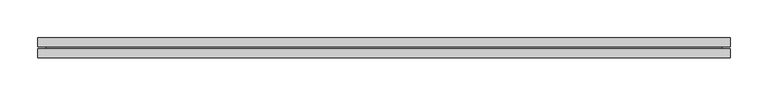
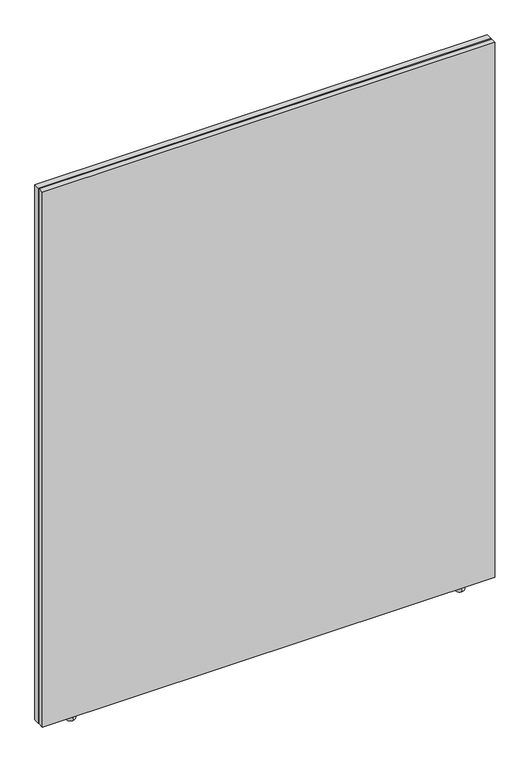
"""IFC4 building model written with IfcOpenShell, lengths in millimetres: furniture geometry, Geiger_GeigerOneCasegoods_WallFrameStandardApplication : 36Wx1Dx45H."""

from ifc_helpers import new_model, si_unit, point, frame, origin, place, context, project, spatial, circle_curve, ellipse_curve, trimmed, faceted_brep, source, transform, mapped, element, save
from ifc_brep_helpers import plane_surface, cylinder_surface, revolved_surface, advanced_brep


def furniture_9214251e(model_context):
    return source(origin(), model_context, "Body", "SolidModel", [
        faceted_brep([(914.4, 26.0, 12.7), (0.0, 26.0, 12.7), (0.0, 26.0, 1155.7), (914.4, 26.0, 1155.7), (914.4, 0.0, 1155.7), (0.0, 0.0, 1155.7), (0.0, 0.0, 12.7), (914.4, 0.0, 12.7), (914.4, 14.5, 1155.7), (914.4, 14.5, 12.7), (903.4, 11.5, 1144.7), (903.4, 11.5, 23.7), (903.4, 14.5, 23.7), (903.4, 14.5, 1144.7), (914.4, 11.5, 12.7), (914.4, 11.5, 1155.7), (0.0, 14.5, 12.7), (11.0, 11.5, 23.7), (11.0, 14.5, 23.7), (0.0, 11.5, 12.7), (0.0, 14.5, 1155.7), (11.0, 11.5, 1144.7), (11.0, 14.5, 1144.7), (0.0, 11.5, 1155.7)], [[[0, 1, 2, 3]], [[4, 5, 6, 7]], [[8, 9, 0, 3]], [[10, 11, 12, 13]], [[4, 7, 14, 15]], [[9, 16, 1, 0]], [[11, 17, 18, 12]], [[7, 6, 19, 14]], [[16, 20, 2, 1]], [[17, 21, 22, 18]], [[6, 5, 23, 19]], [[3, 2, 20, 8]], [[8, 20, 16, 9], [12, 18, 22, 13]], [[13, 22, 21, 10]], [[14, 19, 23, 15], [10, 21, 17, 11]], [[15, 23, 5, 4]]]),
        advanced_brep(
        [(850.4, 13.0, 0.0), (850.4, 17.7387577, 0.0), (850.4, 8.2612423, 0.0), (850.4, 18.8637403, 9.4), (850.4, 7.1362597, 9.4), (850.4, 20.25, 9.4), (850.4, 5.75, 9.4), (850.4, 20.25, 12.7), (850.4, 5.75, 12.7), (850.4, 13.0, 12.7)],
        [
            (0, 1),
            (1, 2, circle_curve(frame((850.4, 13.0, 0.0), z_axis=(0.0, 0.0, -1.0), x_axis=(0.0, -1.0, 0.0)), 4.7387577)),
            (2, 0),
            (2, 1, circle_curve(frame((850.4, 13.0, 0.0), z_axis=(0.0, 0.0, -1.0), x_axis=(0.0, -1.0, 0.0)), 4.7387577)),
            (1, 3, circle_curve(frame((850.4, 17.7387577, 4.7673184), z_axis=(1.0, 0.0, 0.0), x_axis=(0.0, 1.0, 0.0)), 4.7673184)),
            (3, 4, circle_curve(frame((850.4, 13.0, 9.4), z_axis=(0.0, 0.0, -1.0), x_axis=(0.0, -1.0, 0.0)), 5.8637403)),
            (4, 2, circle_curve(frame((850.4, 8.2612423, 4.7673184), z_axis=(1.0, 0.0, 0.0), x_axis=(0.0, -1.0, 0.0)), 4.7673184)),
            (4, 3, circle_curve(frame((850.4, 13.0, 9.4), z_axis=(0.0, 0.0, -1.0), x_axis=(0.0, -1.0, 0.0)), 5.8637403)),
            (3, 5),
            (5, 6, circle_curve(frame((850.4, 13.0, 9.4), z_axis=(0.0, 0.0, -1.0), x_axis=(0.0, -1.0, 0.0)), 7.25)),
            (6, 4),
            (6, 5, circle_curve(frame((850.4, 13.0, 9.4), z_axis=(0.0, 0.0, -1.0), x_axis=(0.0, -1.0, 0.0)), 7.25)),
            (5, 7),
            (7, 8, circle_curve(frame((850.4, 13.0, 12.7), z_axis=(0.0, 0.0, -1.0), x_axis=(0.0, -1.0, 0.0)), 7.25)),
            (8, 6),
            (8, 7, circle_curve(frame((850.4, 13.0, 12.7), z_axis=(0.0, 0.0, -1.0), x_axis=(0.0, -1.0, 0.0)), 7.25)),
            (7, 9),
            (9, 8),
        ],
        [
            plane_surface(frame((850.4, 13.0, 0.0), z_axis=(0.0, 0.0, -1.0), x_axis=(0.0, -1.0, 0.0))),
            revolved_surface(trimmed(ellipse_curve(frame((850.4, 8.2612423, 4.7673184), z_axis=(1.0, 0.0, 0.0), x_axis=(0.0, -1.0, 0.0)), 4.7673184, 4.7673184), [point((850.4, 7.1362597, 9.4))], [point((850.4, 8.2612423, 0.0))], True, "CARTESIAN"), (850.4, 13.0, 0.0), (0.0, 0.0, -1.0)),
            plane_surface(frame((850.4, 13.0, 9.4), z_axis=(0.0, 0.0, -1.0), x_axis=(0.0, -1.0, 0.0))),
            cylinder_surface(frame((850.4, 13.0, 0.0), z_axis=(0.0, 0.0, -1.0), x_axis=(0.0, -1.0, 0.0)), 7.25),
            plane_surface(frame((850.4, 13.0, 12.7), z_axis=(0.0, 0.0, 1.0), x_axis=(0.0, -1.0, 0.0))),
        ],
        [
            (0, [[1, 2, 3]]),
            (0, [[-3, 4, -1]]),
            (1, [[5, 6, 7, -2]]),
            (1, [[-7, 8, -5, -4]]),
            (2, [[9, 10, 11, -6]]),
            (2, [[-11, 12, -9, -8]]),
            (3, [[13, 14, 15, -10]]),
            (3, [[-15, 16, -13, -12]]),
            (4, [[17, 18, -14]]),
            (4, [[-18, -17, -16]]),
        ],
    ),
        advanced_brep(
        [(64.0, 17.7387577, 0.0), (64.0, 13.0, 0.0), (64.0, 8.2612423, 0.0), (64.0, 18.8637403, 9.4), (64.0, 7.1362597, 9.4), (64.0, 20.25, 9.4), (64.0, 5.75, 9.4), (64.0, 20.25, 12.7), (64.0, 5.75, 12.7), (64.0, 13.0, 12.7)],
        [
            (0, 1),
            (1, 2),
            (2, 0, circle_curve(frame((64.0, 13.0, 0.0), z_axis=(0.0, 0.0, -1.0), x_axis=(0.0, -1.0, 0.0)), 4.7387577)),
            (0, 2, circle_curve(frame((64.0, 13.0, 0.0), z_axis=(0.0, 0.0, -1.0), x_axis=(0.0, -1.0, 0.0)), 4.7387577)),
            (3, 0, circle_curve(frame((64.0, 17.7387577, 4.7673184), z_axis=(-1.0, 0.0, 0.0), x_axis=(0.0, 1.0, 0.0)), 4.7673184)),
            (2, 4, circle_curve(frame((64.0, 8.2612423, 4.7673184), z_axis=(-1.0, 0.0, 0.0), x_axis=(0.0, -1.0, 0.0)), 4.7673184)),
            (4, 3, circle_curve(frame((64.0, 13.0, 9.4), z_axis=(0.0, 0.0, -1.0), x_axis=(0.0, -1.0, 0.0)), 5.8637403)),
            (3, 4, circle_curve(frame((64.0, 13.0, 9.4), z_axis=(0.0, 0.0, -1.0), x_axis=(0.0, -1.0, 0.0)), 5.8637403)),
            (5, 3),
            (4, 6),
            (6, 5, circle_curve(frame((64.0, 13.0, 9.4), z_axis=(0.0, 0.0, -1.0), x_axis=(0.0, -1.0, 0.0)), 7.25)),
            (5, 6, circle_curve(frame((64.0, 13.0, 9.4), z_axis=(0.0, 0.0, -1.0), x_axis=(0.0, -1.0, 0.0)), 7.25)),
            (7, 5),
            (6, 8),
            (8, 7, circle_curve(frame((64.0, 13.0, 12.7), z_axis=(0.0, 0.0, -1.0), x_axis=(0.0, -1.0, 0.0)), 7.25)),
            (7, 8, circle_curve(frame((64.0, 13.0, 12.7), z_axis=(0.0, 0.0, -1.0), x_axis=(0.0, -1.0, 0.0)), 7.25)),
            (9, 7),
            (8, 9),
        ],
        [
            plane_surface(frame((64.0, 13.0, 0.0), z_axis=(0.0, 0.0, -1.0), x_axis=(0.0, -1.0, 0.0))),
            revolved_surface(trimmed(ellipse_curve(frame((64.0, 8.2612423, 4.7673184), z_axis=(-1.0, 0.0, 0.0), x_axis=(0.0, -1.0, 0.0)), 4.7673184, 4.7673184), [point((64.0, 8.2612423, 0.0))], [point((64.0, 7.1362597, 9.4))], True, "CARTESIAN"), (64.0, 13.0, 0.0), (0.0, 0.0, 1.0)),
            plane_surface(frame((64.0, 13.0, 9.4), z_axis=(0.0, 0.0, -1.0), x_axis=(0.0, -1.0, 0.0))),
            cylinder_surface(frame((64.0, 13.0, 0.0), z_axis=(0.0, 0.0, 1.0), x_axis=(0.0, -1.0, 0.0)), 7.25),
            plane_surface(frame((64.0, 13.0, 12.7), z_axis=(0.0, 0.0, 1.0), x_axis=(0.0, -1.0, 0.0))),
        ],
        [
            (0, [[1, 2, 3]]),
            (0, [[-2, -1, 4]]),
            (1, [[5, -3, 6, 7]]),
            (1, [[-6, -4, -5, 8]]),
            (2, [[9, -7, 10, 11]]),
            (2, [[-10, -8, -9, 12]]),
            (3, [[13, -11, 14, 15]]),
            (3, [[-14, -12, -13, 16]]),
            (4, [[17, -15, 18]]),
            (4, [[-18, -16, -17]]),
        ],
    ),
    ])


if __name__ == "__main__":
    model = new_model("IFC4")
    model_context = context("Model", 3, world=origin())
    ifc_project = project(units=[si_unit("LENGTHUNIT", "METRE", prefix="MILLI")], contexts=[model_context])
    site = spatial("IfcSite", under=ifc_project)
    building = spatial("IfcBuilding", under=site)
    placement = place(None, origin())
    furniture_shape = furniture_9214251e(model_context)
    element("IfcFurniture", 1, ObjectType="Geiger_GeigerOneCasegoods_WallFrameStandardApplication : 36Wx1Dx45H", at=placement, inside=building, context=model_context, shape_type="MappedRepresentation", body=[
        mapped(furniture_shape, transform((0.0, 0.0, 0.0), x_axis=(1.0, 0.0, 0.0), y_axis=(0.0, 1.0, 0.0), z_axis=(0.0, 0.0, 1.0))),
    ])
    save(model, "model.ifc")
